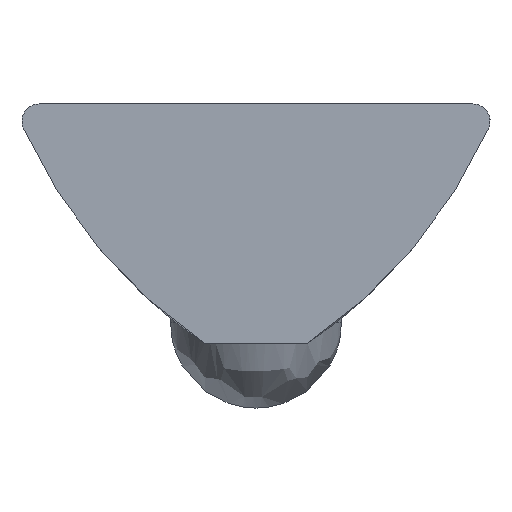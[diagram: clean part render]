
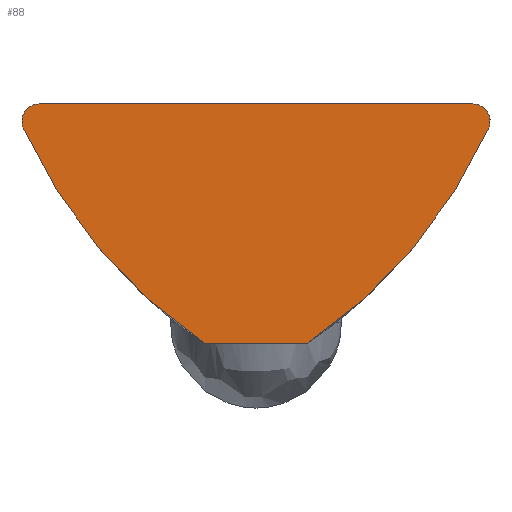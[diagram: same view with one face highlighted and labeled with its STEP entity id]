
A CAD part, left-side view. The second image highlights one B-rep face of the part: STEP entity #88.
In plain terms, the highlighted planar face has unit normal (-1, 0, 0).
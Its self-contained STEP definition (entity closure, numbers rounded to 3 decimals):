
#3 = EDGE_CURVE ( 'NONE', #362, #226, #737, .T. ) ;
#17 = CARTESIAN_POINT ( 'NONE',  ( -38., -1.5, -7. ) ) ;
#24 = AXIS2_PLACEMENT_3D ( 'NONE', #164, #277, #491 ) ;
#52 = DIRECTION ( 'NONE',  ( 0., 1., 0. ) ) ;
#59 = EDGE_LOOP ( 'NONE', ( #651, #886, #626, #489, #586, #414 ) ) ;
#88 = ADVANCED_FACE ( 'NONE', ( #546 ), #396, .F. ) ;
#96 = VERTEX_POINT ( 'NONE', #684 ) ;
#98 = EDGE_CURVE ( 'NONE', #96, #101, #519, .T. ) ;
#100 = DIRECTION ( 'NONE',  ( 1., 0., 0. ) ) ;
#101 = VERTEX_POINT ( 'NONE', #889 ) ;
#105 = DIRECTION ( 'NONE',  ( 0., 0., 1. ) ) ;
#109 = DIRECTION ( 'NONE',  ( 0., 0., -1. ) ) ;
#111 = AXIS2_PLACEMENT_3D ( 'NONE', #442, #507, #213 ) ;
#150 = EDGE_CURVE ( 'NONE', #101, #341, #438, .T. ) ;
#164 = CARTESIAN_POINT ( 'NONE',  ( -38., 6.35, -0.5 ) ) ;
#203 = AXIS2_PLACEMENT_3D ( 'NONE', #235, #542, #322 ) ;
#213 = DIRECTION ( 'NONE',  ( 0., 0., 1. ) ) ;
#214 = CIRCLE ( 'NONE', #24, 0.5 ) ;
#226 = VERTEX_POINT ( 'NONE', #839 ) ;
#235 = CARTESIAN_POINT ( 'NONE',  ( -38., 6.876, 5.444 ) ) ;
#251 = DIRECTION ( 'NONE',  ( 1., 0., 0. ) ) ;
#277 = DIRECTION ( 'NONE',  ( 1., 0., 0. ) ) ;
#278 = CARTESIAN_POINT ( 'NONE',  ( -38., 6.35, 0. ) ) ;
#286 = EDGE_CURVE ( 'NONE', #96, #693, #767, .T. ) ;
#313 = CARTESIAN_POINT ( 'NONE',  ( -38., -6.35, -0.5 ) ) ;
#322 = DIRECTION ( 'NONE',  ( 0., 0., 1. ) ) ;
#341 = VERTEX_POINT ( 'NONE', #17 ) ;
#362 = VERTEX_POINT ( 'NONE', #866 ) ;
#378 = VECTOR ( 'NONE', #52, 1000. ) ;
#396 = PLANE ( 'NONE',  #861 ) ;
#414 = ORIENTED_EDGE ( 'NONE', *, *, #286, .T. ) ;
#438 = CIRCLE ( 'NONE', #203, 15. ) ;
#442 = CARTESIAN_POINT ( 'NONE',  ( -38., -6.876, 5.444 ) ) ;
#449 = DIRECTION ( 'NONE',  ( 0., 1., 0. ) ) ;
#488 = AXIS2_PLACEMENT_3D ( 'NONE', #313, #251, #105 ) ;
#489 = ORIENTED_EDGE ( 'NONE', *, *, #150, .F. ) ;
#491 = DIRECTION ( 'NONE',  ( 0., 0., 1. ) ) ;
#503 = EDGE_CURVE ( 'NONE', #341, #362, #599, .T. ) ;
#507 = DIRECTION ( 'NONE',  ( 1., 0., 0. ) ) ;
#519 = CIRCLE ( 'NONE', #488, 0.5 ) ;
#534 = EDGE_CURVE ( 'NONE', #226, #693, #214, .T. ) ;
#542 = DIRECTION ( 'NONE',  ( 1., 0., 0. ) ) ;
#546 = FACE_OUTER_BOUND ( 'NONE', #59, .T. ) ;
#586 = ORIENTED_EDGE ( 'NONE', *, *, #98, .F. ) ;
#599 = LINE ( 'NONE', #683, #622 ) ;
#622 = VECTOR ( 'NONE', #449, 1000. ) ;
#626 = ORIENTED_EDGE ( 'NONE', *, *, #503, .F. ) ;
#651 = ORIENTED_EDGE ( 'NONE', *, *, #534, .F. ) ;
#683 = CARTESIAN_POINT ( 'NONE',  ( -38., -6.35, -7. ) ) ;
#684 = CARTESIAN_POINT ( 'NONE',  ( -38., -6.35, 0. ) ) ;
#693 = VERTEX_POINT ( 'NONE', #719 ) ;
#719 = CARTESIAN_POINT ( 'NONE',  ( -38., 6.35, 0. ) ) ;
#737 = CIRCLE ( 'NONE', #111, 15. ) ;
#741 = CARTESIAN_POINT ( 'NONE',  ( -38., -6.35, -0.5 ) ) ;
#767 = LINE ( 'NONE', #278, #378 ) ;
#839 = CARTESIAN_POINT ( 'NONE',  ( -38., 6.806, -0.705 ) ) ;
#861 = AXIS2_PLACEMENT_3D ( 'NONE', #741, #100, #109 ) ;
#866 = CARTESIAN_POINT ( 'NONE',  ( -38., 1.5, -7. ) ) ;
#886 = ORIENTED_EDGE ( 'NONE', *, *, #3, .F. ) ;
#889 = CARTESIAN_POINT ( 'NONE',  ( -38., -6.806, -0.705 ) ) ;
